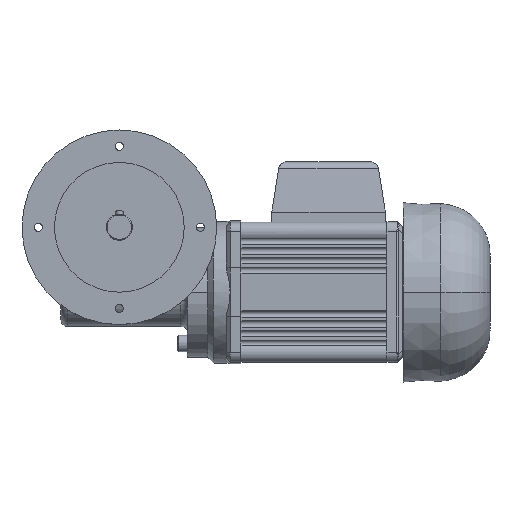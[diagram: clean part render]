
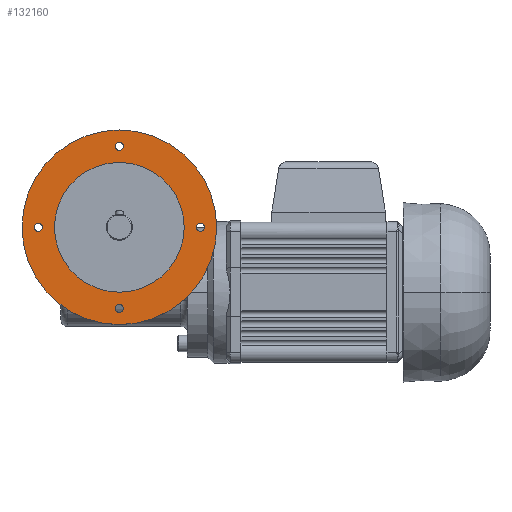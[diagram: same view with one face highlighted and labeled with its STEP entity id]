
A CAD part, top view. The second image highlights one B-rep face of the part: STEP entity #132160.
In plain terms, the highlighted planar face has unit normal (0, 0, 1) as drawn and (0, 0, -1) by its records, which use the part's own axes.
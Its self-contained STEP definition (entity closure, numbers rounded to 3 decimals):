
#131080=CARTESIAN_POINT('',(-167.458,-326.495,
-24.983));
#131090=VERTEX_POINT('',#131080);
#131170=CARTESIAN_POINT('',(-287.458,-326.495,
-24.983));
#131180=VERTEX_POINT('',#131170);
#131210=CARTESIAN_POINT('',(-227.458,-326.495,
-24.983));
#131220=DIRECTION('',(0.,0.,-1.));
#131230=DIRECTION('',(1.,0.,0.));
#131240=AXIS2_PLACEMENT_3D('',#131210,#131220,#131230);
#131250=CIRCLE('',#131240,60.);
#131260=EDGE_CURVE('',#131180,#131090,#131250,.T.);
#131310=CARTESIAN_POINT('',(-207.613,-343.736,
-24.983));
#131320=DIRECTION('',(0.,0.,-1.));
#131330=DIRECTION('',(1.,0.,0.));
#131340=AXIS2_PLACEMENT_3D('',#131310,#131320,#131330);
#131350=PLANE('',#131340);
#131360=EDGE_CURVE('',#131090,#131180,#131250,.T.);
#131370=ORIENTED_EDGE('',*,*,#131360,.T.);
#131380=ORIENTED_EDGE('',*,*,#131260,.T.);
#131390=EDGE_LOOP('',(#131380,#131370));
#131400=FACE_OUTER_BOUND('',#131390,.T.);
#131410=CARTESIAN_POINT('',(-227.458,-326.495,
-24.983));
#131420=DIRECTION('',(0.,0.,-1.));
#131430=DIRECTION('',(1.,0.,0.));
#131440=AXIS2_PLACEMENT_3D('',#131410,#131420,#131430);
#131450=CIRCLE('',#131440,40.);
#131460=CARTESIAN_POINT('',(-187.458,-326.495,
-24.983));
#131470=VERTEX_POINT('',#131460);
#131480=CARTESIAN_POINT('',(-267.458,-326.495,
-24.983));
#131490=VERTEX_POINT('',#131480);
#131500=EDGE_CURVE('',#131470,#131490,#131450,.T.);
#131510=ORIENTED_EDGE('',*,*,#131500,.F.);
#131520=EDGE_CURVE('',#131490,#131470,#131450,.T.);
#131530=ORIENTED_EDGE('',*,*,#131520,.F.);
#131540=EDGE_LOOP('',(#131530,#131510));
#131550=FACE_BOUND('',#131540,.T.);
#131560=CARTESIAN_POINT('',(-177.458,-326.495,
-24.983));
#131570=DIRECTION('',(0.,0.,-1.));
#131580=DIRECTION('',(-1.,0.,0.));
#131590=AXIS2_PLACEMENT_3D('',#131560,#131570,#131580);
#131600=CIRCLE('',#131590,2.5);
#131610=CARTESIAN_POINT('',(-179.958,-326.495,
-24.983));
#131620=VERTEX_POINT('',#131610);
#131630=CARTESIAN_POINT('',(-174.958,-326.495,
-24.983));
#131640=VERTEX_POINT('',#131630);
#131650=EDGE_CURVE('',#131620,#131640,#131600,.T.);
#131660=ORIENTED_EDGE('',*,*,#131650,.F.);
#131670=EDGE_CURVE('',#131640,#131620,#131600,.T.);
#131680=ORIENTED_EDGE('',*,*,#131670,.F.);
#131690=EDGE_LOOP('',(#131680,#131660));
#131700=FACE_BOUND('',#131690,.T.);
#131710=CARTESIAN_POINT('',(-227.458,-276.495,
-24.983));
#131720=DIRECTION('',(0.,0.,-1.));
#131730=DIRECTION('',(0.,-1.,0.));
#131740=AXIS2_PLACEMENT_3D('',#131710,#131720,#131730);
#131750=CIRCLE('',#131740,2.5);
#131760=CARTESIAN_POINT('',(-227.458,-278.995,
-24.983));
#131770=VERTEX_POINT('',#131760);
#131780=CARTESIAN_POINT('',(-227.458,-273.995,
-24.983));
#131790=VERTEX_POINT('',#131780);
#131800=EDGE_CURVE('',#131770,#131790,#131750,.T.);
#131810=ORIENTED_EDGE('',*,*,#131800,.F.);
#131820=EDGE_CURVE('',#131790,#131770,#131750,.T.);
#131830=ORIENTED_EDGE('',*,*,#131820,.F.);
#131840=EDGE_LOOP('',(#131830,#131810));
#131850=FACE_BOUND('',#131840,.T.);
#131860=CARTESIAN_POINT('',(-277.458,-326.495,
-24.983));
#131870=DIRECTION('',(0.,0.,-1.));
#131880=DIRECTION('',(1.,0.,0.));
#131890=AXIS2_PLACEMENT_3D('',#131860,#131870,#131880);
#131900=CIRCLE('',#131890,2.5);
#131910=CARTESIAN_POINT('',(-274.958,-326.495,
-24.983));
#131920=VERTEX_POINT('',#131910);
#131930=CARTESIAN_POINT('',(-279.958,-326.495,
-24.983));
#131940=VERTEX_POINT('',#131930);
#131950=EDGE_CURVE('',#131920,#131940,#131900,.T.);
#131960=ORIENTED_EDGE('',*,*,#131950,.F.);
#131970=EDGE_CURVE('',#131940,#131920,#131900,.T.);
#131980=ORIENTED_EDGE('',*,*,#131970,.F.);
#131990=EDGE_LOOP('',(#131980,#131960));
#132000=FACE_BOUND('',#131990,.T.);
#132010=CARTESIAN_POINT('',(-227.458,-376.495,
-24.983));
#132020=DIRECTION('',(0.,0.,-1.));
#132030=DIRECTION('',(0.,1.,0.));
#132040=AXIS2_PLACEMENT_3D('',#132010,#132020,#132030);
#132050=CIRCLE('',#132040,2.5);
#132060=CARTESIAN_POINT('',(-227.458,-373.995,
-24.983));
#132070=VERTEX_POINT('',#132060);
#132080=CARTESIAN_POINT('',(-227.458,-378.995,
-24.983));
#132090=VERTEX_POINT('',#132080);
#132100=EDGE_CURVE('',#132070,#132090,#132050,.T.);
#132110=ORIENTED_EDGE('',*,*,#132100,.F.);
#132120=EDGE_CURVE('',#132090,#132070,#132050,.T.);
#132130=ORIENTED_EDGE('',*,*,#132120,.F.);
#132140=EDGE_LOOP('',(#132130,#132110));
#132150=FACE_BOUND('',#132140,.T.);
#132160=ADVANCED_FACE('',(#131400,#131550,#131700,#131850,#132000,
#132150),#131350,.T.);
